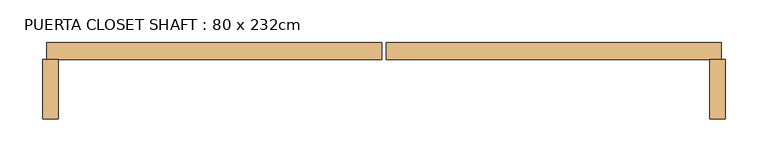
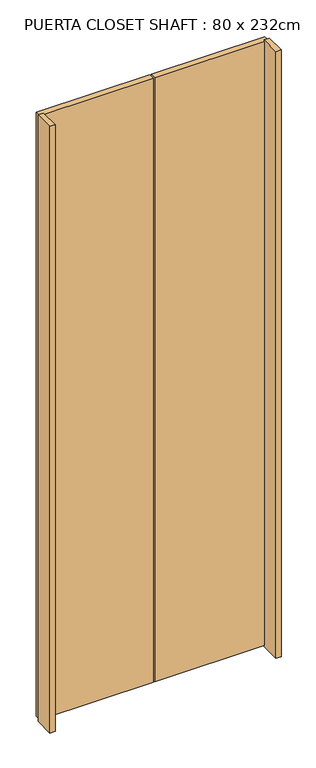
"""IFC4 building model written with IfcOpenShell, lengths in millimetres: door geometry, PUERTA CLOSET SHAFT : 80 x 232cm."""

from ifc_helpers import new_model, si_unit, frame, origin, origin_with_axes, place, context, project, spatial, polyline, outline, extrude, source, transform, mapped, element, save


def puerta_closet_shaft_80_x_232cm_003f94e8(model_context):
    return source(origin(), model_context, "Body", "SweptSolid", [
        extrude(outline(polyline([(-1139.0315708, 55.0), (-1139.0315708, 75.0), (-746.5315708, 75.0), (-746.5315708, 55.0), (-1139.0315708, 55.0)])), frame((0.0, 0.0, 5.0), z_axis=(0.0, 0.0, 1.0), x_axis=(1.0, 0.0, 0.0)), (0.0, 0.0, 1.0), 2210.0),
        extrude(outline(polyline([(-1144.0315708, 55.0), (-1536.5315708, 55.0), (-1536.5315708, 75.0), (-1144.0315708, 75.0), (-1144.0315708, 55.0)])), frame((0.0, 0.0, 5.0), z_axis=(0.0, 0.0, 1.0), x_axis=(1.0, 0.0, 0.0)), (0.0, 0.0, 1.0), 2210.0),
        extrude(outline(polyline([(-741.5315708, 55.0), (-741.5315708, -15.0), (-759.5315708, -15.0), (-759.5315708, 55.0), (-741.5315708, 55.0)])), origin_with_axes(), (0.0, 0.0, 1.0), 2220.0),
        extrude(outline(polyline([(-1523.5315708, 55.0), (-1523.5315708, -15.0), (-1541.5315708, -15.0), (-1541.5315708, 55.0), (-1523.5315708, 55.0)])), origin_with_axes(), (0.0, 0.0, 1.0), 2220.0),
    ])


if __name__ == "__main__":
    model = new_model("IFC4")
    model_context = context("Model", 3, world=origin())
    ifc_project = project(units=[si_unit("LENGTHUNIT", "METRE", prefix="MILLI")], contexts=[model_context])
    site = spatial("IfcSite", under=ifc_project)
    building = spatial("IfcBuilding", under=site)
    placement = place(None, origin())
    puerta_closet_shaft_80_x_232cm_shape = puerta_closet_shaft_80_x_232cm_003f94e8(model_context)
    element("IfcDoor", 1, ObjectType="PUERTA CLOSET SHAFT : 80 x 232cm", at=placement, inside=building, context=model_context, shape_type="MappedRepresentation", body=[
        mapped(puerta_closet_shaft_80_x_232cm_shape, transform((0.0, 0.0, 0.0), x_axis=(1.0, 0.0, 0.0), y_axis=(0.0, 1.0, 0.0), z_axis=(0.0, 0.0, 1.0))),
    ])
    save(model, "model.ifc")
